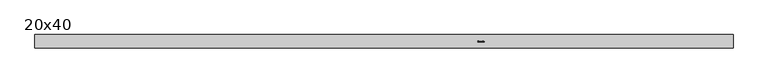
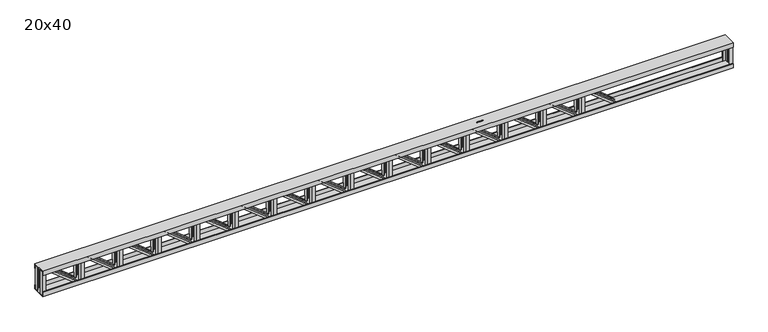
"""IFC4 building model written with IfcOpenShell, lengths in millimetres: beam geometry, Viga Treliçada - Igor Ramos.0001 : 20x40."""

from ifc_helpers import new_model, si_unit, frame, origin, place, context, project, spatial, polyline, outline, extrude, faceted_brep, source, transform, mapped, element, save


def beam_20x40_d718723e(model_context):
    return source(origin(), model_context, "Body", "SolidModel", [
        extrude(outline(polyline([(1462.8367936, 90.0), (1512.8367936, 90.0), (1512.8367936, 85.0), (1467.8367936, 85.0), (1467.8367936, 40.0), (1462.8367936, 40.0), (1462.8367936, 90.0)])), frame((0.0, 0.0, -190.0), z_axis=(0.0, 0.0, 1.0), x_axis=(1.0, 0.0, 0.0)), (0.0, 0.0, 1.0), 380.0),
        extrude(outline(polyline([(887.9371615, 90.0), (937.9371615, 90.0), (937.9371615, 85.0), (892.9371615, 85.0), (892.9371615, 40.0), (887.9371615, 40.0), (887.9371615, 90.0)])), frame((0.0, 0.0, -190.0), z_axis=(0.0, 0.0, 1.0), x_axis=(1.0, 0.0, 0.0)), (0.0, 0.0, 1.0), 380.0),
        extrude(outline(polyline([(313.0375295, 90.0), (363.0375295, 90.0), (363.0375295, 85.0), (318.0375295, 85.0), (318.0375295, 40.0), (313.0375295, 40.0), (313.0375295, 90.0)])), frame((0.0, 0.0, -190.0), z_axis=(0.0, 0.0, 1.0), x_axis=(1.0, 0.0, 0.0)), (0.0, 0.0, 1.0), 380.0),
        extrude(outline(polyline([(-261.8621026, 90.0), (-211.8621026, 90.0), (-211.8621026, 85.0), (-256.8621026, 85.0), (-256.8621026, 40.0), (-261.8621026, 40.0), (-261.8621026, 90.0)])), frame((0.0, 0.0, -190.0), z_axis=(0.0, 0.0, 1.0), x_axis=(1.0, 0.0, 0.0)), (0.0, 0.0, 1.0), 380.0),
        extrude(outline(polyline([(-836.7617346, 90.0), (-786.7617346, 90.0), (-786.7617346, 85.0), (-831.7617346, 85.0), (-831.7617346, 40.0), (-836.7617346, 40.0), (-836.7617346, 90.0)])), frame((0.0, 0.0, -190.0), z_axis=(0.0, 0.0, 1.0), x_axis=(1.0, 0.0, 0.0)), (0.0, 0.0, 1.0), 380.0),
        extrude(outline(polyline([(-1411.6613667, 90.0), (-1361.6613667, 90.0), (-1361.6613667, 85.0), (-1406.6613667, 85.0), (-1406.6613667, 40.0), (-1411.6613667, 40.0), (-1411.6613667, 90.0)])), frame((0.0, 0.0, -190.0), z_axis=(0.0, 0.0, 1.0), x_axis=(1.0, 0.0, 0.0)), (0.0, 0.0, 1.0), 380.0),
        extrude(outline(polyline([(-1986.5609987, 90.0), (-1936.5609987, 90.0), (-1936.5609987, 85.0), (-1981.5609987, 85.0), (-1981.5609987, 40.0), (-1986.5609987, 40.0), (-1986.5609987, 90.0)])), frame((0.0, 0.0, -190.0), z_axis=(0.0, 0.0, 1.0), x_axis=(1.0, 0.0, 0.0)), (0.0, 0.0, 1.0), 380.0),
        extrude(outline(polyline([(-2561.4606308, 90.0), (-2511.4606308, 90.0), (-2511.4606308, 85.0), (-2556.4606308, 85.0), (-2556.4606308, 40.0), (-2561.4606308, 40.0), (-2561.4606308, 90.0)])), frame((0.0, 0.0, -190.0), z_axis=(0.0, 0.0, 1.0), x_axis=(1.0, 0.0, 0.0)), (0.0, 0.0, 1.0), 380.0),
        extrude(outline(polyline([(-3136.3602628, 90.0), (-3086.3602628, 90.0), (-3086.3602628, 85.0), (-3131.3602628, 85.0), (-3131.3602628, 40.0), (-3136.3602628, 40.0), (-3136.3602628, 90.0)])), frame((0.0, 0.0, -190.0), z_axis=(0.0, 0.0, 1.0), x_axis=(1.0, 0.0, 0.0)), (0.0, 0.0, 1.0), 380.0),
        extrude(outline(polyline([(-3711.2598949, 90.0), (-3661.2598949, 90.0), (-3661.2598949, 85.0), (-3706.2598949, 85.0), (-3706.2598949, 40.0), (-3711.2598949, 40.0), (-3711.2598949, 90.0)])), frame((0.0, 0.0, -190.0), z_axis=(0.0, 0.0, 1.0), x_axis=(1.0, 0.0, 0.0)), (0.0, 0.0, 1.0), 380.0),
        extrude(outline(polyline([(1462.8367936, -90.0), (1462.8367936, -40.0), (1467.8367936, -40.0), (1467.8367936, -85.0), (1512.8367936, -85.0), (1512.8367936, -90.0), (1462.8367936, -90.0)])), frame((0.0, 0.0, -190.0), z_axis=(0.0, 0.0, 1.0), x_axis=(1.0, 0.0, 0.0)), (0.0, 0.0, 1.0), 380.0),
        extrude(outline(polyline([(887.9371615, -90.0), (887.9371615, -40.0), (892.9371615, -40.0), (892.9371615, -85.0), (937.9371615, -85.0), (937.9371615, -90.0), (887.9371615, -90.0)])), frame((0.0, 0.0, -190.0), z_axis=(0.0, 0.0, 1.0), x_axis=(1.0, 0.0, 0.0)), (0.0, 0.0, 1.0), 380.0),
        extrude(outline(polyline([(313.0375295, -90.0), (313.0375295, -40.0), (318.0375295, -40.0), (318.0375295, -85.0), (363.0375295, -85.0), (363.0375295, -90.0), (313.0375295, -90.0)])), frame((0.0, 0.0, -190.0), z_axis=(0.0, 0.0, 1.0), x_axis=(1.0, 0.0, 0.0)), (0.0, 0.0, 1.0), 380.0),
        extrude(outline(polyline([(-261.8621026, -90.0), (-261.8621026, -40.0), (-256.8621026, -40.0), (-256.8621026, -85.0), (-211.8621026, -85.0), (-211.8621026, -90.0), (-261.8621026, -90.0)])), frame((0.0, 0.0, -190.0), z_axis=(0.0, 0.0, 1.0), x_axis=(1.0, 0.0, 0.0)), (0.0, 0.0, 1.0), 380.0),
        extrude(outline(polyline([(-836.7617346, -90.0), (-836.7617346, -40.0), (-831.7617346, -40.0), (-831.7617346, -85.0), (-786.7617346, -85.0), (-786.7617346, -90.0), (-836.7617346, -90.0)])), frame((0.0, 0.0, -190.0), z_axis=(0.0, 0.0, 1.0), x_axis=(1.0, 0.0, 0.0)), (0.0, 0.0, 1.0), 380.0),
        extrude(outline(polyline([(-1411.6613667, -90.0), (-1411.6613667, -40.0), (-1406.6613667, -40.0), (-1406.6613667, -85.0), (-1361.6613667, -85.0), (-1361.6613667, -90.0), (-1411.6613667, -90.0)])), frame((0.0, 0.0, -190.0), z_axis=(0.0, 0.0, 1.0), x_axis=(1.0, 0.0, 0.0)), (0.0, 0.0, 1.0), 380.0),
        extrude(outline(polyline([(-1986.5609987, -90.0), (-1986.5609987, -40.0), (-1981.5609987, -40.0), (-1981.5609987, -85.0), (-1936.5609987, -85.0), (-1936.5609987, -90.0), (-1986.5609987, -90.0)])), frame((0.0, 0.0, -190.0), z_axis=(0.0, 0.0, 1.0), x_axis=(1.0, 0.0, 0.0)), (0.0, 0.0, 1.0), 380.0),
        extrude(outline(polyline([(-2561.4606308, -90.0), (-2561.4606308, -40.0), (-2556.4606308, -40.0), (-2556.4606308, -85.0), (-2511.4606308, -85.0), (-2511.4606308, -90.0), (-2561.4606308, -90.0)])), frame((0.0, 0.0, -190.0), z_axis=(0.0, 0.0, 1.0), x_axis=(1.0, 0.0, 0.0)), (0.0, 0.0, 1.0), 380.0),
        extrude(outline(polyline([(-3136.3602628, -90.0), (-3136.3602628, -40.0), (-3131.3602628, -40.0), (-3131.3602628, -85.0), (-3086.3602628, -85.0), (-3086.3602628, -90.0), (-3136.3602628, -90.0)])), frame((0.0, 0.0, -190.0), z_axis=(0.0, 0.0, 1.0), x_axis=(1.0, 0.0, 0.0)), (0.0, 0.0, 1.0), 380.0),
        extrude(outline(polyline([(-3711.2598949, -90.0), (-3711.2598949, -40.0), (-3706.2598949, -40.0), (-3706.2598949, -85.0), (-3661.2598949, -85.0), (-3661.2598949, -90.0), (-3711.2598949, -90.0)])), frame((0.0, 0.0, -190.0), z_axis=(0.0, 0.0, 1.0), x_axis=(1.0, 0.0, 0.0)), (0.0, 0.0, 1.0), 380.0),
        faceted_brep([(1987.7364256, -90.0, -190.0), (1987.7364256, -85.0, -190.0), (2032.7364256, -85.0, -190.0), (2032.7364256, -40.0, -190.0), (2037.7364256, -40.0, -190.0), (2037.7364256, -90.0, -190.0), (1512.8367936, -90.0, 190.0), (1562.8367936, -90.0, 190.0), (1562.8367936, -40.0, 190.0), (1557.8367936, -40.0, 190.0), (1557.8367936, -85.0, 190.0), (1512.8367936, -85.0, 190.0)], [[[0, 1, 2, 3, 4, 5]], [[6, 7, 8, 9, 10, 11]], [[6, 11, 1, 0]], [[11, 10, 2, 1]], [[10, 9, 3, 2]], [[9, 8, 4, 3]], [[8, 7, 5, 4]], [[7, 6, 0, 5]]]),
        faceted_brep([(1412.8367936, -90.0, -190.0), (1412.8367936, -85.0, -190.0), (1457.8367936, -85.0, -190.0), (1457.8367936, -40.0, -190.0), (1462.8367936, -40.0, -190.0), (1462.8367936, -90.0, -190.0), (937.9371615, -90.0, 190.0), (987.9371615, -90.0, 190.0), (987.9371615, -40.0, 190.0), (982.9371615, -40.0, 190.0), (982.9371615, -85.0, 190.0), (937.9371615, -85.0, 190.0)], [[[0, 1, 2, 3, 4, 5]], [[6, 7, 8, 9, 10, 11]], [[6, 11, 1, 0]], [[11, 10, 2, 1]], [[10, 9, 3, 2]], [[9, 8, 4, 3]], [[8, 7, 5, 4]], [[7, 6, 0, 5]]]),
        faceted_brep([(837.9371615, -90.0, -190.0), (837.9371615, -85.0, -190.0), (882.9371615, -85.0, -190.0), (882.9371615, -40.0, -190.0), (887.9371615, -40.0, -190.0), (887.9371615, -90.0, -190.0), (363.0375295, -90.0, 190.0), (413.0375295, -90.0, 190.0), (413.0375295, -40.0, 190.0), (408.0375295, -40.0, 190.0), (408.0375295, -85.0, 190.0), (363.0375295, -85.0, 190.0)], [[[0, 1, 2, 3, 4, 5]], [[6, 7, 8, 9, 10, 11]], [[6, 11, 1, 0]], [[11, 10, 2, 1]], [[10, 9, 3, 2]], [[9, 8, 4, 3]], [[8, 7, 5, 4]], [[7, 6, 0, 5]]]),
        faceted_brep([(263.0375295, -90.0, -190.0), (263.0375295, -85.0, -190.0), (308.0375295, -85.0, -190.0), (308.0375295, -40.0, -190.0), (313.0375295, -40.0, -190.0), (313.0375295, -90.0, -190.0), (-211.8621026, -90.0, 190.0), (-161.8621026, -90.0, 190.0), (-161.8621026, -40.0, 190.0), (-166.8621026, -40.0, 190.0), (-166.8621026, -85.0, 190.0), (-211.8621026, -85.0, 190.0)], [[[0, 1, 2, 3, 4, 5]], [[6, 7, 8, 9, 10, 11]], [[6, 11, 1, 0]], [[11, 10, 2, 1]], [[10, 9, 3, 2]], [[9, 8, 4, 3]], [[8, 7, 5, 4]], [[7, 6, 0, 5]]]),
        faceted_brep([(-311.8621026, -90.0, -190.0), (-311.8621026, -85.0, -190.0), (-266.8621026, -85.0, -190.0), (-266.8621026, -40.0, -190.0), (-261.8621026, -40.0, -190.0), (-261.8621026, -90.0, -190.0), (-786.7617346, -90.0, 190.0), (-736.7617346, -90.0, 190.0), (-736.7617346, -40.0, 190.0), (-741.7617346, -40.0, 190.0), (-741.7617346, -85.0, 190.0), (-786.7617346, -85.0, 190.0)], [[[0, 1, 2, 3, 4, 5]], [[6, 7, 8, 9, 10, 11]], [[6, 11, 1, 0]], [[11, 10, 2, 1]], [[10, 9, 3, 2]], [[9, 8, 4, 3]], [[8, 7, 5, 4]], [[7, 6, 0, 5]]]),
        faceted_brep([(-886.7617346, -90.0, -190.0), (-886.7617346, -85.0, -190.0), (-841.7617346, -85.0, -190.0), (-841.7617346, -40.0, -190.0), (-836.7617346, -40.0, -190.0), (-836.7617346, -90.0, -190.0), (-1361.6613667, -90.0, 190.0), (-1311.6613667, -90.0, 190.0), (-1311.6613667, -40.0, 190.0), (-1316.6613667, -40.0, 190.0), (-1316.6613667, -85.0, 190.0), (-1361.6613667, -85.0, 190.0)], [[[0, 1, 2, 3, 4, 5]], [[6, 7, 8, 9, 10, 11]], [[6, 11, 1, 0]], [[11, 10, 2, 1]], [[10, 9, 3, 2]], [[9, 8, 4, 3]], [[8, 7, 5, 4]], [[7, 6, 0, 5]]]),
        faceted_brep([(-1461.6613667, -90.0, -190.0), (-1461.6613667, -85.0, -190.0), (-1416.6613667, -85.0, -190.0), (-1416.6613667, -40.0, -190.0), (-1411.6613667, -40.0, -190.0), (-1411.6613667, -90.0, -190.0), (-1936.5609987, -90.0, 190.0), (-1886.5609987, -90.0, 190.0), (-1886.5609987, -40.0, 190.0), (-1891.5609987, -40.0, 190.0), (-1891.5609987, -85.0, 190.0), (-1936.5609987, -85.0, 190.0)], [[[0, 1, 2, 3, 4, 5]], [[6, 7, 8, 9, 10, 11]], [[6, 11, 1, 0]], [[11, 10, 2, 1]], [[10, 9, 3, 2]], [[9, 8, 4, 3]], [[8, 7, 5, 4]], [[7, 6, 0, 5]]]),
        faceted_brep([(-2036.5609987, -90.0, -190.0), (-2036.5609987, -85.0, -190.0), (-1991.5609987, -85.0, -190.0), (-1991.5609987, -40.0, -190.0), (-1986.5609987, -40.0, -190.0), (-1986.5609987, -90.0, -190.0), (-2511.4606308, -90.0, 190.0), (-2461.4606308, -90.0, 190.0), (-2461.4606308, -40.0, 190.0), (-2466.4606308, -40.0, 190.0), (-2466.4606308, -85.0, 190.0), (-2511.4606308, -85.0, 190.0)], [[[0, 1, 2, 3, 4, 5]], [[6, 7, 8, 9, 10, 11]], [[6, 11, 1, 0]], [[11, 10, 2, 1]], [[10, 9, 3, 2]], [[9, 8, 4, 3]], [[8, 7, 5, 4]], [[7, 6, 0, 5]]]),
        faceted_brep([(-2611.4606308, -90.0, -190.0), (-2611.4606308, -85.0, -190.0), (-2566.4606308, -85.0, -190.0), (-2566.4606308, -40.0, -190.0), (-2561.4606308, -40.0, -190.0), (-2561.4606308, -90.0, -190.0), (-3086.3602628, -90.0, 190.0), (-3036.3602628, -90.0, 190.0), (-3036.3602628, -40.0, 190.0), (-3041.3602628, -40.0, 190.0), (-3041.3602628, -85.0, 190.0), (-3086.3602628, -85.0, 190.0)], [[[0, 1, 2, 3, 4, 5]], [[6, 7, 8, 9, 10, 11]], [[6, 11, 1, 0]], [[11, 10, 2, 1]], [[10, 9, 3, 2]], [[9, 8, 4, 3]], [[8, 7, 5, 4]], [[7, 6, 0, 5]]]),
        faceted_brep([(-3186.3602628, -90.0, -190.0), (-3186.3602628, -85.0, -190.0), (-3141.3602628, -85.0, -190.0), (-3141.3602628, -40.0, -190.0), (-3136.3602628, -40.0, -190.0), (-3136.3602628, -90.0, -190.0), (-3661.2598949, -90.0, 190.0), (-3611.2598949, -90.0, 190.0), (-3611.2598949, -40.0, 190.0), (-3616.2598949, -40.0, 190.0), (-3616.2598949, -85.0, 190.0), (-3661.2598949, -85.0, 190.0)], [[[0, 1, 2, 3, 4, 5]], [[6, 7, 8, 9, 10, 11]], [[6, 11, 1, 0]], [[11, 10, 2, 1]], [[10, 9, 3, 2]], [[9, 8, 4, 3]], [[8, 7, 5, 4]], [[7, 6, 0, 5]]]),
        faceted_brep([(1987.7364256, 90.0, -190.0), (2037.7364256, 90.0, -190.0), (2037.7364256, 40.0, -190.0), (2032.7364256, 40.0, -190.0), (2032.7364256, 85.0, -190.0), (1987.7364256, 85.0, -190.0), (1512.8367936, 90.0, 190.0), (1512.8367936, 85.0, 190.0), (1557.8367936, 85.0, 190.0), (1557.8367936, 40.0, 190.0), (1562.8367936, 40.0, 190.0), (1562.8367936, 90.0, 190.0)], [[[0, 1, 2, 3, 4, 5]], [[6, 7, 8, 9, 10, 11]], [[6, 0, 5, 7]], [[7, 5, 4, 8]], [[8, 4, 3, 9]], [[9, 3, 2, 10]], [[10, 2, 1, 11]], [[11, 1, 0, 6]]]),
        faceted_brep([(1412.8367936, 90.0, -190.0), (1462.8367936, 90.0, -190.0), (1462.8367936, 40.0, -190.0), (1457.8367936, 40.0, -190.0), (1457.8367936, 85.0, -190.0), (1412.8367936, 85.0, -190.0), (937.9371615, 90.0, 190.0), (937.9371615, 85.0, 190.0), (982.9371615, 85.0, 190.0), (982.9371615, 40.0, 190.0), (987.9371615, 40.0, 190.0), (987.9371615, 90.0, 190.0)], [[[0, 1, 2, 3, 4, 5]], [[6, 7, 8, 9, 10, 11]], [[6, 0, 5, 7]], [[7, 5, 4, 8]], [[8, 4, 3, 9]], [[9, 3, 2, 10]], [[10, 2, 1, 11]], [[11, 1, 0, 6]]]),
        faceted_brep([(837.9371615, 90.0, -190.0), (887.9371615, 90.0, -190.0), (887.9371615, 40.0, -190.0), (882.9371615, 40.0, -190.0), (882.9371615, 85.0, -190.0), (837.9371615, 85.0, -190.0), (363.0375295, 90.0, 190.0), (363.0375295, 85.0, 190.0), (408.0375295, 85.0, 190.0), (408.0375295, 40.0, 190.0), (413.0375295, 40.0, 190.0), (413.0375295, 90.0, 190.0)], [[[0, 1, 2, 3, 4, 5]], [[6, 7, 8, 9, 10, 11]], [[6, 0, 5, 7]], [[7, 5, 4, 8]], [[8, 4, 3, 9]], [[9, 3, 2, 10]], [[10, 2, 1, 11]], [[11, 1, 0, 6]]]),
        faceted_brep([(263.0375295, 90.0, -190.0), (313.0375295, 90.0, -190.0), (313.0375295, 40.0, -190.0), (308.0375295, 40.0, -190.0), (308.0375295, 85.0, -190.0), (263.0375295, 85.0, -190.0), (-211.8621026, 90.0, 190.0), (-211.8621026, 85.0, 190.0), (-166.8621026, 85.0, 190.0), (-166.8621026, 40.0, 190.0), (-161.8621026, 40.0, 190.0), (-161.8621026, 90.0, 190.0)], [[[0, 1, 2, 3, 4, 5]], [[6, 7, 8, 9, 10, 11]], [[6, 0, 5, 7]], [[7, 5, 4, 8]], [[8, 4, 3, 9]], [[9, 3, 2, 10]], [[10, 2, 1, 11]], [[11, 1, 0, 6]]]),
        faceted_brep([(-311.8621026, 90.0, -190.0), (-261.8621026, 90.0, -190.0), (-261.8621026, 40.0, -190.0), (-266.8621026, 40.0, -190.0), (-266.8621026, 85.0, -190.0), (-311.8621026, 85.0, -190.0), (-786.7617346, 90.0, 190.0), (-786.7617346, 85.0, 190.0), (-741.7617346, 85.0, 190.0), (-741.7617346, 40.0, 190.0), (-736.7617346, 40.0, 190.0), (-736.7617346, 90.0, 190.0)], [[[0, 1, 2, 3, 4, 5]], [[6, 7, 8, 9, 10, 11]], [[6, 0, 5, 7]], [[7, 5, 4, 8]], [[8, 4, 3, 9]], [[9, 3, 2, 10]], [[10, 2, 1, 11]], [[11, 1, 0, 6]]]),
        faceted_brep([(-886.7617346, 90.0, -190.0), (-836.7617346, 90.0, -190.0), (-836.7617346, 40.0, -190.0), (-841.7617346, 40.0, -190.0), (-841.7617346, 85.0, -190.0), (-886.7617346, 85.0, -190.0), (-1361.6613667, 90.0, 190.0), (-1361.6613667, 85.0, 190.0), (-1316.6613667, 85.0, 190.0), (-1316.6613667, 40.0, 190.0), (-1311.6613667, 40.0, 190.0), (-1311.6613667, 90.0, 190.0)], [[[0, 1, 2, 3, 4, 5]], [[6, 7, 8, 9, 10, 11]], [[6, 0, 5, 7]], [[7, 5, 4, 8]], [[8, 4, 3, 9]], [[9, 3, 2, 10]], [[10, 2, 1, 11]], [[11, 1, 0, 6]]]),
        faceted_brep([(-1461.6613667, 90.0, -190.0), (-1411.6613667, 90.0, -190.0), (-1411.6613667, 40.0, -190.0), (-1416.6613667, 40.0, -190.0), (-1416.6613667, 85.0, -190.0), (-1461.6613667, 85.0, -190.0), (-1936.5609987, 90.0, 190.0), (-1936.5609987, 85.0, 190.0), (-1891.5609987, 85.0, 190.0), (-1891.5609987, 40.0, 190.0), (-1886.5609987, 40.0, 190.0), (-1886.5609987, 90.0, 190.0)], [[[0, 1, 2, 3, 4, 5]], [[6, 7, 8, 9, 10, 11]], [[6, 0, 5, 7]], [[7, 5, 4, 8]], [[8, 4, 3, 9]], [[9, 3, 2, 10]], [[10, 2, 1, 11]], [[11, 1, 0, 6]]]),
        faceted_brep([(-2036.5609987, 90.0, -190.0), (-1986.5609987, 90.0, -190.0), (-1986.5609987, 40.0, -190.0), (-1991.5609987, 40.0, -190.0), (-1991.5609987, 85.0, -190.0), (-2036.5609987, 85.0, -190.0), (-2511.4606308, 90.0, 190.0), (-2511.4606308, 85.0, 190.0), (-2466.4606308, 85.0, 190.0), (-2466.4606308, 40.0, 190.0), (-2461.4606308, 40.0, 190.0), (-2461.4606308, 90.0, 190.0)], [[[0, 1, 2, 3, 4, 5]], [[6, 7, 8, 9, 10, 11]], [[6, 0, 5, 7]], [[7, 5, 4, 8]], [[8, 4, 3, 9]], [[9, 3, 2, 10]], [[10, 2, 1, 11]], [[11, 1, 0, 6]]]),
        faceted_brep([(-2611.4606308, 90.0, -190.0), (-2561.4606308, 90.0, -190.0), (-2561.4606308, 40.0, -190.0), (-2566.4606308, 40.0, -190.0), (-2566.4606308, 85.0, -190.0), (-2611.4606308, 85.0, -190.0), (-3086.3602628, 90.0, 190.0), (-3086.3602628, 85.0, 190.0), (-3041.3602628, 85.0, 190.0), (-3041.3602628, 40.0, 190.0), (-3036.3602628, 40.0, 190.0), (-3036.3602628, 90.0, 190.0)], [[[0, 1, 2, 3, 4, 5]], [[6, 7, 8, 9, 10, 11]], [[6, 0, 5, 7]], [[7, 5, 4, 8]], [[8, 4, 3, 9]], [[9, 3, 2, 10]], [[10, 2, 1, 11]], [[11, 1, 0, 6]]]),
        faceted_brep([(-3186.3602628, 90.0, -190.0), (-3136.3602628, 90.0, -190.0), (-3136.3602628, 40.0, -190.0), (-3141.3602628, 40.0, -190.0), (-3141.3602628, 85.0, -190.0), (-3186.3602628, 85.0, -190.0), (-3661.2598949, 90.0, 190.0), (-3661.2598949, 85.0, 190.0), (-3616.2598949, 85.0, 190.0), (-3616.2598949, 40.0, 190.0), (-3611.2598949, 40.0, 190.0), (-3611.2598949, 90.0, 190.0)], [[[0, 1, 2, 3, 4, 5]], [[6, 7, 8, 9, 10, 11]], [[6, 0, 5, 7]], [[7, 5, 4, 8]], [[8, 4, 3, 9]], [[9, 3, 2, 10]], [[10, 2, 1, 11]], [[11, 1, 0, 6]]]),
        extrude(outline(polyline([(-4286.159527, 90.0), (-4236.159527, 90.0), (-4236.159527, 85.0), (-4281.159527, 85.0), (-4281.159527, 40.0), (-4286.159527, 40.0), (-4286.159527, 90.0)])), frame((0.0, 0.0, -190.0), z_axis=(0.0, 0.0, 1.0), x_axis=(1.0, 0.0, 0.0)), (0.0, 0.0, 1.0), 380.0),
        extrude(outline(polyline([(-4861.059159, 90.0), (-4811.059159, 90.0), (-4811.059159, 85.0), (-4856.059159, 85.0), (-4856.059159, 40.0), (-4861.059159, 40.0), (-4861.059159, 90.0)])), frame((0.0, 0.0, -190.0), z_axis=(0.0, 0.0, 1.0), x_axis=(1.0, 0.0, 0.0)), (0.0, 0.0, 1.0), 380.0),
        extrude(outline(polyline([(-4286.159527, -90.0), (-4286.159527, -40.0), (-4281.159527, -40.0), (-4281.159527, -85.0), (-4236.159527, -85.0), (-4236.159527, -90.0), (-4286.159527, -90.0)])), frame((0.0, 0.0, -190.0), z_axis=(0.0, 0.0, 1.0), x_axis=(1.0, 0.0, 0.0)), (0.0, 0.0, 1.0), 380.0),
        extrude(outline(polyline([(-4861.059159, -90.0), (-4861.059159, -40.0), (-4856.059159, -40.0), (-4856.059159, -85.0), (-4811.059159, -85.0), (-4811.059159, -90.0), (-4861.059159, -90.0)])), frame((0.0, 0.0, -190.0), z_axis=(0.0, 0.0, 1.0), x_axis=(1.0, 0.0, 0.0)), (0.0, 0.0, 1.0), 380.0),
        faceted_brep([(-3761.2598949, 90.0, -190.0), (-3711.2598949, 90.0, -190.0), (-3711.2598949, 40.0, -190.0), (-3716.2598949, 40.0, -190.0), (-3716.2598949, 85.0, -190.0), (-3761.2598949, 85.0, -190.0), (-4236.159527, 90.0, 190.0), (-4236.159527, 85.0, 190.0), (-4191.159527, 85.0, 190.0), (-4191.159527, 40.0, 190.0), (-4186.159527, 40.0, 190.0), (-4186.159527, 90.0, 190.0)], [[[0, 1, 2, 3, 4, 5]], [[6, 7, 8, 9, 10, 11]], [[6, 0, 5, 7]], [[7, 5, 4, 8]], [[8, 4, 3, 9]], [[9, 3, 2, 10]], [[10, 2, 1, 11]], [[11, 1, 0, 6]]]),
        faceted_brep([(-4336.159527, 90.0, -190.0), (-4286.159527, 90.0, -190.0), (-4286.159527, 40.0, -190.0), (-4291.159527, 40.0, -190.0), (-4291.159527, 85.0, -190.0), (-4336.159527, 85.0, -190.0), (-4811.059159, 90.0, 190.0), (-4811.059159, 85.0, 190.0), (-4766.059159, 85.0, 190.0), (-4766.059159, 40.0, 190.0), (-4761.059159, 40.0, 190.0), (-4761.059159, 90.0, 190.0)], [[[0, 1, 2, 3, 4, 5]], [[6, 7, 8, 9, 10, 11]], [[6, 0, 5, 7]], [[7, 5, 4, 8]], [[8, 4, 3, 9]], [[9, 3, 2, 10]], [[10, 2, 1, 11]], [[11, 1, 0, 6]]]),
        faceted_brep([(-4911.059159, 90.0, -190.0), (-4861.059159, 90.0, -190.0), (-4861.059159, 40.0, -190.0), (-4866.059159, 40.0, -190.0), (-4866.059159, 85.0, -190.0), (-4911.059159, 85.0, -190.0), (-5385.9587911, 90.0, 190.0), (-5385.9587911, 85.0, 190.0), (-5340.9587911, 85.0, 190.0), (-5340.9587911, 40.0, 190.0), (-5335.9587911, 40.0, 190.0), (-5335.9587911, 90.0, 190.0)], [[[0, 1, 2, 3, 4, 5]], [[6, 7, 8, 9, 10, 11]], [[6, 0, 5, 7]], [[7, 5, 4, 8]], [[8, 4, 3, 9]], [[9, 3, 2, 10]], [[10, 2, 1, 11]], [[11, 1, 0, 6]]]),
        faceted_brep([(-3761.2598949, -90.0, -190.0), (-3761.2598949, -85.0, -190.0), (-3716.2598949, -85.0, -190.0), (-3716.2598949, -40.0, -190.0), (-3711.2598949, -40.0, -190.0), (-3711.2598949, -90.0, -190.0), (-4236.159527, -90.0, 190.0), (-4186.159527, -90.0, 190.0), (-4186.159527, -40.0, 190.0), (-4191.159527, -40.0, 190.0), (-4191.159527, -85.0, 190.0), (-4236.159527, -85.0, 190.0)], [[[0, 1, 2, 3, 4, 5]], [[6, 7, 8, 9, 10, 11]], [[6, 11, 1, 0]], [[11, 10, 2, 1]], [[10, 9, 3, 2]], [[9, 8, 4, 3]], [[8, 7, 5, 4]], [[7, 6, 0, 5]]]),
        faceted_brep([(-4336.159527, -90.0, -190.0), (-4336.159527, -85.0, -190.0), (-4291.159527, -85.0, -190.0), (-4291.159527, -40.0, -190.0), (-4286.159527, -40.0, -190.0), (-4286.159527, -90.0, -190.0), (-4811.059159, -90.0, 190.0), (-4761.059159, -90.0, 190.0), (-4761.059159, -40.0, 190.0), (-4766.059159, -40.0, 190.0), (-4766.059159, -85.0, 190.0), (-4811.059159, -85.0, 190.0)], [[[0, 1, 2, 3, 4, 5]], [[6, 7, 8, 9, 10, 11]], [[6, 11, 1, 0]], [[11, 10, 2, 1]], [[10, 9, 3, 2]], [[9, 8, 4, 3]], [[8, 7, 5, 4]], [[7, 6, 0, 5]]]),
        faceted_brep([(-4911.059159, -90.0, -190.0), (-4911.059159, -85.0, -190.0), (-4866.059159, -85.0, -190.0), (-4866.059159, -40.0, -190.0), (-4861.059159, -40.0, -190.0), (-4861.059159, -90.0, -190.0), (-5385.9587911, -90.0, 190.0), (-5335.9587911, -90.0, 190.0), (-5335.9587911, -40.0, 190.0), (-5340.9587911, -40.0, 190.0), (-5340.9587911, -85.0, 190.0), (-5385.9587911, -85.0, 190.0)], [[[0, 1, 2, 3, 4, 5]], [[6, 7, 8, 9, 10, 11]], [[6, 11, 1, 0]], [[11, 10, 2, 1]], [[10, 9, 3, 2]], [[9, 8, 4, 3]], [[8, 7, 5, 4]], [[7, 6, 0, 5]]]),
        extrude(outline(polyline([(-5435.9587911, 90.0), (-5385.9587911, 90.0), (-5385.9587911, 85.0), (-5430.9587911, 85.0), (-5430.9587911, 40.0), (-5435.9587911, 40.0), (-5435.9587911, 90.0)])), frame((0.0, 0.0, -190.0), z_axis=(0.0, 0.0, 1.0), x_axis=(1.0, 0.0, 0.0)), (0.0, 0.0, 1.0), 380.0),
        extrude(outline(polyline([(-5435.9587911, -90.0), (-5435.9587911, -40.0), (-5430.9587911, -40.0), (-5430.9587911, -85.0), (-5385.9587911, -85.0), (-5385.9587911, -90.0), (-5435.9587911, -90.0)])), frame((0.0, 0.0, -190.0), z_axis=(0.0, 0.0, 1.0), x_axis=(1.0, 0.0, 0.0)), (0.0, 0.0, 1.0), 380.0),
        extrude(outline(polyline([(3724.3800442, 90.0), (3724.3800442, 40.0), (3719.3800442, 40.0), (3719.3800442, 85.0), (3674.3800442, 85.0), (3674.3800442, 90.0), (3724.3800442, 90.0)])), frame((0.0, 0.0, -190.0), z_axis=(0.0, 0.0, 1.0), x_axis=(1.0, 0.0, 0.0)), (0.0, 0.0, 1.0), 380.0),
        extrude(outline(polyline([(3724.3800442, -90.0), (3674.3800442, -90.0), (3674.3800442, -85.0), (3719.3800442, -85.0), (3719.3800442, -40.0), (3724.3800442, -40.0), (3724.3800442, -90.0)])), frame((0.0, 0.0, -190.0), z_axis=(0.0, 0.0, 1.0), x_axis=(1.0, 0.0, 0.0)), (0.0, 0.0, 1.0), 380.0),
        extrude(outline(polyline([(-6010.8584231, 90.0), (-5960.8584231, 90.0), (-5960.8584231, 85.0), (-6005.8584231, 85.0), (-6005.8584231, 40.0), (-6010.8584231, 40.0), (-6010.8584231, 90.0)])), frame((0.0, 0.0, -190.0), z_axis=(0.0, 0.0, 1.0), x_axis=(1.0, 0.0, 0.0)), (0.0, 0.0, 1.0), 380.0),
        extrude(outline(polyline([(-6010.8584231, -90.0), (-6010.8584231, -40.0), (-6005.8584231, -40.0), (-6005.8584231, -85.0), (-5960.8584231, -85.0), (-5960.8584231, -90.0), (-6010.8584231, -90.0)])), frame((0.0, 0.0, -190.0), z_axis=(0.0, 0.0, 1.0), x_axis=(1.0, 0.0, 0.0)), (0.0, 0.0, 1.0), 380.0),
        faceted_brep([(-5485.9587911, -90.0, -190.0), (-5485.9587911, -85.0, -190.0), (-5440.9587911, -85.0, -190.0), (-5440.9587911, -40.0, -190.0), (-5435.9587911, -40.0, -190.0), (-5435.9587911, -90.0, -190.0), (-5960.8584231, -90.0, 190.0), (-5910.8584231, -90.0, 190.0), (-5910.8584231, -40.0, 190.0), (-5915.8584231, -40.0, 190.0), (-5915.8584231, -85.0, 190.0), (-5960.8584231, -85.0, 190.0)], [[[0, 1, 2, 3, 4, 5]], [[6, 7, 8, 9, 10, 11]], [[6, 11, 1, 0]], [[11, 10, 2, 1]], [[10, 9, 3, 2]], [[9, 8, 4, 3]], [[8, 7, 5, 4]], [[7, 6, 0, 5]]]),
        faceted_brep([(-5485.9587911, 90.0, -190.0), (-5435.9587911, 90.0, -190.0), (-5435.9587911, 40.0, -190.0), (-5440.9587911, 40.0, -190.0), (-5440.9587911, 85.0, -190.0), (-5485.9587911, 85.0, -190.0), (-5960.8584231, 90.0, 190.0), (-5960.8584231, 85.0, 190.0), (-5915.8584231, 85.0, 190.0), (-5915.8584231, 40.0, 190.0), (-5910.8584231, 40.0, 190.0), (-5910.8584231, 90.0, 190.0)], [[[0, 1, 2, 3, 4, 5]], [[6, 7, 8, 9, 10, 11]], [[6, 0, 5, 7]], [[7, 5, 4, 8]], [[8, 4, 3, 9]], [[9, 3, 2, 10]], [[10, 2, 1, 11]], [[11, 1, 0, 6]]]),
        faceted_brep([(-6060.8584231, 90.0, -190.0), (-6010.8584231, 90.0, -190.0), (-6010.8584231, 40.0, -190.0), (-6015.8584231, 40.0, -190.0), (-6015.8584231, 85.0, -190.0), (-6060.8584231, 85.0, -190.0), (-6535.7580552, 90.0, 190.0), (-6535.7580552, 85.0, 190.0), (-6490.7580552, 85.0, 190.0), (-6490.7580552, 40.0, 190.0), (-6485.7580552, 40.0, 190.0), (-6485.7580552, 90.0, 190.0)], [[[0, 1, 2, 3, 4, 5]], [[6, 7, 8, 9, 10, 11]], [[6, 0, 5, 7]], [[7, 5, 4, 8]], [[8, 4, 3, 9]], [[9, 3, 2, 10]], [[10, 2, 1, 11]], [[11, 1, 0, 6]]]),
        extrude(outline(polyline([(-6585.7580552, 90.0), (-6535.7580552, 90.0), (-6535.7580552, 85.0), (-6580.7580552, 85.0), (-6580.7580552, 40.0), (-6585.7580552, 40.0), (-6585.7580552, 90.0)])), frame((0.0, 0.0, -190.0), z_axis=(0.0, 0.0, 1.0), x_axis=(1.0, 0.0, 0.0)), (0.0, 0.0, 1.0), 380.0),
        extrude(outline(polyline([(-6585.7580552, -90.0), (-6585.7580552, -40.0), (-6580.7580552, -40.0), (-6580.7580552, -85.0), (-6535.7580552, -85.0), (-6535.7580552, -90.0), (-6585.7580552, -90.0)])), frame((0.0, 0.0, -190.0), z_axis=(0.0, 0.0, 1.0), x_axis=(1.0, 0.0, 0.0)), (0.0, 0.0, 1.0), 380.0),
        faceted_brep([(-6060.8584231, -90.0, -190.0), (-6060.8584231, -85.0, -190.0), (-6015.8584231, -85.0, -190.0), (-6015.8584231, -40.0, -190.0), (-6010.8584231, -40.0, -190.0), (-6010.8584231, -90.0, -190.0), (-6535.7580552, -90.0, 190.0), (-6485.7580552, -90.0, 190.0), (-6485.7580552, -40.0, 190.0), (-6490.7580552, -40.0, 190.0), (-6490.7580552, -85.0, 190.0), (-6535.7580552, -85.0, 190.0)], [[[0, 1, 2, 3, 4, 5]], [[6, 7, 8, 9, 10, 11]], [[6, 11, 1, 0]], [[11, 10, 2, 1]], [[10, 9, 3, 2]], [[9, 8, 4, 3]], [[8, 7, 5, 4]], [[7, 6, 0, 5]]]),
        extrude(outline(polyline([(-100.0, 200.0), (100.0, 200.0), (100.0, 130.0), (90.0, 130.0), (90.0, 190.0), (-90.0, 190.0), (-90.0, 130.0), (-100.0, 130.0), (-100.0, 200.0)])), frame((-6585.7580552, 0.0, 0.0), z_axis=(1.0, 0.0, 0.0), x_axis=(0.0, 1.0, 0.0)), (0.0, 0.0, 1.0), 10310.1380994),
        extrude(outline(polyline([(100.0, -130.0), (100.0, -200.0), (-100.0, -200.0), (-100.0, -130.0), (-90.0, -130.0), (-90.0, -190.0), (90.0, -190.0), (90.0, -130.0), (100.0, -130.0)])), frame((-6585.7580552, 0.0, 0.0), z_axis=(1.0, 0.0, 0.0), x_axis=(0.0, 1.0, 0.0)), (0.0, 0.0, 1.0), 10310.1380994),
        extrude(outline(polyline([(-40.6337926, -4.4248778), (-42.2708675, -4.6848478), (-43.3708347, -5.0), (-44.5480571, -4.6394756), (-45.476346, -3.5309246), (-45.8331915, -1.8877183), (-45.2801422, 0.3195737), (-43.9042636, 1.9799477), (-42.3064294, 2.5342233), (-41.1807105, 2.219071), (-40.2561005, 1.258899), (-40.0255611, 2.3772603), (-38.7698572, 2.3772603), (-39.809737, -2.2286223), (-40.0255611, -3.290575), (-38.5859162, -3.3469836), (-37.3437013, -1.9551634), (-36.8863014, -0.1513153), (-37.4749126, 1.8744882), (-39.2321622, 3.3815781), (-41.8134676, 3.9468901), (-44.7589761, 3.2295202), (-46.8264729, 1.1730599), (-47.5597843, -1.6964197), (-46.8338305, -4.461666), (-44.7332243, -6.1735436), (-41.6883877, -6.7265928), (-38.6938283, -6.1772224), (-36.8863014, -4.843037), (-35.6305975, -4.843037), (-36.8188564, -6.3366379), (-38.8238132, -7.539612), (-41.6246215, -7.9822967), (-44.4070356, -7.5911155), (-46.5787657, -6.4163457), (-47.9301189, -4.6100451), (-48.5015622, -1.8141419), (-47.8197543, 1.3717162), (-45.462857, 4.215444), (-41.757059, 5.202594), (-38.7257114, 4.5109758), (-36.6042585, 2.4483841), (-35.9445235, -0.1145271), (-37.3130445, -3.6241213), (-40.6337926, -4.4248778)]), holes=[polyline([(-44.5774876, -1.9073387), (-44.1372555, -3.2611444), (-43.1280326, -3.7442961), (-42.3272761, -3.5309246), (-41.5240671, -2.8981675), (-40.8974414, -1.8337623), (-40.653413, -0.5388177), (-41.110813, 0.8014991), (-42.2254954, 1.2785194), (-43.0421934, 1.0712792), (-43.7840888, 0.4066391), (-44.3604373, -0.7055908), (-44.5774876, -1.9073387)])]), frame((0.0, 0.0, 200.0), z_axis=(0.0, 0.0, 1.0), x_axis=(1.0, 0.0, 0.0)), (0.0, 0.0, 1.0), 1.0),
        extrude(outline(polyline([(-34.2179306, 3.7899271), (-34.2179306, 5.045631), (-32.9622268, 5.045631), (-32.9622268, 3.7899271), (-34.2179306, 3.7899271)])), frame((0.0, 0.0, 200.0), z_axis=(0.0, 0.0, 1.0), x_axis=(1.0, 0.0, 0.0)), (0.0, 0.0, 1.0), 1.0),
        extrude(outline(polyline([(-34.2179306, -5.0), (-34.2179306, 2.3772603), (-32.9622268, 2.3772603), (-32.9622268, -5.0), (-34.2179306, -5.0)])), frame((0.0, 0.0, 200.0), z_axis=(0.0, 0.0, 1.0), x_axis=(1.0, 0.0, 0.0)), (0.0, 0.0, 1.0), 1.0),
        extrude(outline(polyline([(-31.3925969, -5.6278519), (-30.136893, -5.7848149), (-28.5108546, -6.7265928), (-27.2257202, -6.4102143), (-26.6125835, -5.5223924), (-26.5267444, -4.0582221), (-28.4887817, -5.0), (-30.7488034, -3.9037117), (-31.5495599, -1.2745817), (-31.1902618, 0.6715141), (-30.1503821, 2.048619), (-28.5500954, 2.5342233), (-26.5267444, 1.4354824), (-26.5267444, 2.3772603), (-25.2710405, 2.3772603), (-25.2710405, -3.9920033), (-25.6143971, -6.431061), (-26.7021015, -7.5653638), (-28.5353801, -7.9822967), (-30.6237236, -7.3949118), (-31.3925969, -5.6278519)]), holes=[polyline([(-30.293856, -1.1887425), (-29.7579746, -3.1323857), (-28.4127528, -3.7442961), (-27.0699835, -3.1360646), (-26.5267444, -1.2255307), (-27.085925, 0.6469886), (-28.4323731, 1.2785194), (-29.7506169, 0.6567988), (-30.293856, -1.1887425)])]), frame((0.0, 0.0, 200.0), z_axis=(0.0, 0.0, 1.0), x_axis=(1.0, 0.0, 0.0)), (0.0, 0.0, 1.0), 1.0),
        extrude(outline(polyline([(-23.7014107, -1.3113699), (-22.6149325, 1.7175252), (-20.4027355, 2.5342233), (-18.0298966, 1.5397156), (-17.1089653, -1.2083629), (-17.5160881, -3.4426329), (-18.7018944, -4.7069207), (-20.4027355, -5.156963), (-22.7902896, -4.1661341), (-23.7014107, -1.3113699)]), holes=[polyline([(-22.4457068, -1.3089173), (-21.8644532, -3.2550131), (-20.4027355, -3.9012591), (-18.9459228, -3.2513342), (-18.3646692, -1.2696766), (-18.9496016, 0.6322733), (-20.4027355, 1.2785194), (-21.8644532, 0.6347259), (-22.4457068, -1.3089173)])]), frame((0.0, 0.0, 200.0), z_axis=(0.0, 0.0, 1.0), x_axis=(1.0, 0.0, 0.0)), (0.0, 0.0, 1.0), 1.0),
        extrude(outline(polyline([(-15.6962985, -5.0), (-15.6962985, 2.3772603), (-14.5975576, 2.3772603), (-14.5975576, 1.285877), (-13.8176477, 2.2914211), (-13.0328328, 2.5342233), (-11.7722238, 2.1467209), (-12.1916093, 1.021002), (-13.0745261, 1.2785194), (-14.2370332, 0.3440991), (-14.4405946, -1.1225238), (-14.4405946, -5.0), (-15.6962985, -5.0)])), frame((0.0, 0.0, 200.0), z_axis=(0.0, 0.0, 1.0), x_axis=(1.0, 0.0, 0.0)), (0.0, 0.0, 1.0), 1.0),
        extrude(outline(polyline([(-10.9874089, -5.0), (-10.9874089, 2.3772603), (-9.888668, 2.3772603), (-9.888668, 1.285877), (-9.1087582, 2.2914211), (-8.3239433, 2.5342233), (-7.0633343, 2.1467209), (-7.4827198, 1.021002), (-8.3656366, 1.2785194), (-9.5281437, 0.3440991), (-9.731705, -1.1225238), (-9.731705, -5.0), (-10.9874089, -5.0)])), frame((0.0, 0.0, 200.0), z_axis=(0.0, 0.0, 1.0), x_axis=(1.0, 0.0, 0.0)), (0.0, 0.0, 1.0), 1.0),
        extrude(outline(polyline([(-1.5696298, -4.0582221), (-2.7873193, -4.9092558), (-4.1325411, -5.156963), (-5.9560095, -4.5609942), (-6.5924454, -3.0379627), (-6.3520958, -2.0446813), (-5.720565, -1.3236326), (-4.8413271, -0.9116048), (-3.7548489, -0.7227587), (-1.5769875, -0.2911105), (-1.9154389, 0.9155425), (-3.3035803, 1.2785194), (-4.5739995, 1.0369435), (-5.1797785, 0.1797785), (-6.4354824, 0.3367415), (-5.8922433, 1.5630148), (-4.7984075, 2.281611), (-3.1417122, 2.5342233), (-1.6199071, 2.3110415), (-0.7602895, 1.7506346), (-0.3752396, 0.8983747), (-0.313926, -0.2003662), (-0.313926, -1.7626384), (-0.2501598, -3.9441787), (0.0, -5.0), (-1.2557039, -5.0), (-1.5696298, -4.0582221)]), holes=[polyline([(-1.5733087, -1.724624), (-3.5954334, -1.9318642), (-4.6757802, -2.1354255), (-3.8652135, -3.9012591), (-2.5947943, -3.6008221), (-1.7756438, -2.8736421), (-1.5733087, -1.724624)])]), frame((0.0, 0.0, 200.0), z_axis=(0.0, 0.0, 1.0), x_axis=(1.0, 0.0, 0.0)), (0.0, 0.0, 1.0), 1.0),
        extrude(outline(polyline([(1.4126669, -5.0), (1.4126669, 2.3772603), (2.6683707, 2.3772603), (2.6683707, 1.1632497), (3.5316672, 2.1577574), (4.760393, 2.5342233), (6.0185494, 2.1503997), (6.7101676, 1.074958), (8.9272697, 2.5342233), (10.5692497, 1.927218), (11.1443719, 0.0571512), (11.1443719, -5.0), (9.888668, -5.0), (9.888668, -0.4824091), (9.7721721, 0.5660546), (7.3981069, 0.7757473), (6.9063713, -0.8355758), (6.9063713, -5.0), (5.6506674, -5.0), (5.6506674, -0.3426139), (5.3600407, 0.8738492), (4.4072263, 1.2785194), (3.4777111, 1.0087393), (2.8596694, 0.2190192), (2.6683707, -1.2794868), (2.6683707, -5.0), (1.4126669, -5.0)])), frame((0.0, 0.0, 200.0), z_axis=(0.0, 0.0, 1.0), x_axis=(1.0, 0.0, 0.0)), (0.0, 0.0, 1.0), 1.0),
        extrude(outline(polyline([(12.7140018, -1.3113699), (13.8004799, 1.7175252), (16.012677, 2.5342233), (18.3855158, 1.5397156), (19.3064471, -1.2083629), (18.8993244, -3.4426329), (17.7135181, -4.7069207), (16.012677, -5.156963), (13.6251228, -4.1661341), (12.7140018, -1.3113699)]), holes=[polyline([(13.9697056, -1.3089173), (14.5509592, -3.2550131), (16.012677, -3.9012591), (17.4694897, -3.2513342), (18.0507432, -1.2696766), (17.4658109, 0.6322733), (16.012677, 1.2785194), (14.5509592, 0.6347259), (13.9697056, -1.3089173)])]), frame((0.0, 0.0, 200.0), z_axis=(0.0, 0.0, 1.0), x_axis=(1.0, 0.0, 0.0)), (0.0, 0.0, 1.0), 1.0),
        extrude(outline(polyline([(20.248225, -2.8025182), (21.5039289, -2.6455552), (22.0851824, -3.577523), (23.4169153, -3.9012591), (24.6971446, -3.604501), (25.1140775, -2.9079777), (23.4022, -1.9858202), (21.5112865, -1.3714573), (20.6860046, -0.6540874), (20.405188, 0.3588144), (20.6308223, 1.2944609), (21.2464115, 2.0093783), (22.0447154, 2.3809391), (23.1250622, 2.5342233), (24.6529988, 2.2877423), (25.6242072, 1.6206496), (26.0558554, 0.4937045), (24.8001516, 0.3367415), (24.3280363, 1.0295859), (23.2231641, 1.2785194), (22.0214162, 1.0406224), (23.3605067, -0.423548), (25.2035955, -1.0146117), (26.0595343, -1.684157), (26.3697814, -2.7755402), (26.0055782, -3.9772881), (24.954662, -4.8491684), (23.3997474, -5.156963), (21.2096233, -4.5634467), (20.248225, -2.8025182)])), frame((0.0, 0.0, 200.0), z_axis=(0.0, 0.0, 1.0), x_axis=(1.0, 0.0, 0.0)), (0.0, 0.0, 1.0), 1.0),
        extrude(outline(polyline([(29.0381522, -5.0), (27.7824483, -5.0), (27.7824483, 5.045631), (29.0381522, 5.045631), (29.0381522, 1.3202127), (31.0099996, 2.5342233), (32.2681561, 2.2607643), (33.2442696, 1.4918909), (33.8439173, 0.2962745), (34.0609677, -1.2010053), (33.1621093, -4.1244409), (31.002642, -5.156963), (29.0381522, -3.8252302), (29.0381522, -5.0)]), holes=[polyline([(29.0381522, -1.2598664), (29.3815087, -3.0158898), (30.89473, -3.9012591), (32.2387255, -3.2488817), (32.8052638, -1.3040122), (32.2620247, 0.6482149), (30.948686, 1.2785194), (29.6046904, 0.626142), (29.0381522, -1.2598664)])]), frame((0.0, 0.0, 200.0), z_axis=(0.0, 0.0, 1.0), x_axis=(1.0, 0.0, 0.0)), (0.0, 0.0, 1.0), 1.0),
        extrude(outline(polyline([(35.4736345, 3.7899271), (35.4736345, 5.045631), (36.7293384, 5.045631), (36.7293384, 3.7899271), (35.4736345, 3.7899271)])), frame((0.0, 0.0, 200.0), z_axis=(0.0, 0.0, 1.0), x_axis=(1.0, 0.0, 0.0)), (0.0, 0.0, 1.0), 1.0),
        extrude(outline(polyline([(35.4736345, -5.0), (35.4736345, 2.3772603), (36.7293384, 2.3772603), (36.7293384, -5.0), (35.4736345, -5.0)])), frame((0.0, 0.0, 200.0), z_axis=(0.0, 0.0, 1.0), x_axis=(1.0, 0.0, 0.0)), (0.0, 0.0, 1.0), 1.0),
        extrude(outline(polyline([(38.6128942, -5.0), (38.6128942, 2.3772603), (39.8685981, 2.3772603), (39.8685981, 1.1632497), (40.7318945, 2.1577574), (41.9606204, 2.5342233), (43.2187768, 2.1503997), (43.9103949, 1.074958), (46.1274971, 2.5342233), (47.7694771, 1.927218), (48.3445993, 0.0571512), (48.3445993, -5.0), (47.0888954, -5.0), (47.0888954, -0.4824091), (46.9723994, 0.5660546), (44.5983343, 0.7757473), (44.1065987, -0.8355758), (44.1065987, -5.0), (42.8508948, -5.0), (42.8508948, -0.3426139), (42.560268, 0.8738492), (41.6074537, 1.2785194), (40.6779385, 1.0087393), (40.0598967, 0.2190192), (39.8685981, -1.2794868), (39.8685981, -5.0), (38.6128942, -5.0)])), frame((0.0, 0.0, 200.0), z_axis=(0.0, 0.0, 1.0), x_axis=(1.0, 0.0, 0.0)), (0.0, 0.0, 1.0), 1.0),
    ])


if __name__ == "__main__":
    model = new_model("IFC4")
    model_context = context("Model", 3, world=origin())
    ifc_project = project(units=[si_unit("LENGTHUNIT", "METRE", prefix="MILLI")], contexts=[model_context])
    site = spatial("IfcSite", under=ifc_project)
    building = spatial("IfcBuilding", under=site)
    placement = place(None, origin())
    beam_20x40_shape = beam_20x40_d718723e(model_context)
    element("IfcBeam", 1, ObjectType="Viga Treliçada - Igor Ramos.0001 : 20x40", at=placement, inside=building, context=model_context, shape_type="MappedRepresentation", body=[
        mapped(beam_20x40_shape, transform((0.0, 0.0, 0.0), x_axis=(1.0, 0.0, 0.0), y_axis=(0.0, 1.0, 0.0), z_axis=(0.0, 0.0, 1.0))),
    ])
    save(model, "model.ifc")
